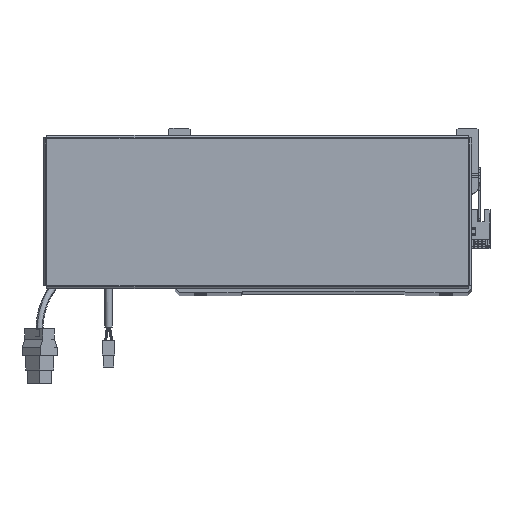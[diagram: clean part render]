
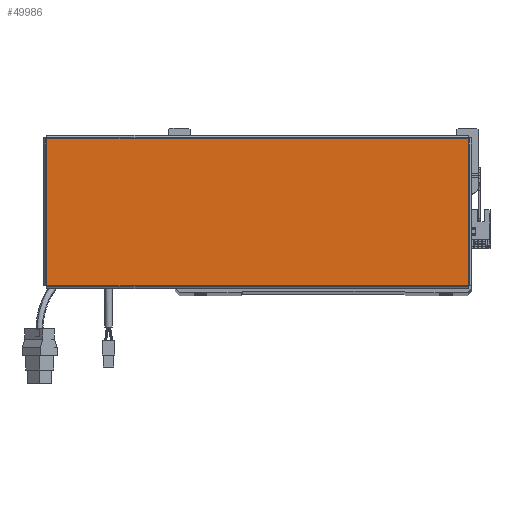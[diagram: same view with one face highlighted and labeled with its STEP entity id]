
A CAD part, top view. The second image highlights one B-rep face of the part: STEP entity #49986.
In plain terms, the highlighted planar face has unit normal (0, 0, 1).
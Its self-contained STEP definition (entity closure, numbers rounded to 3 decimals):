
#469 = CARTESIAN_POINT ( 'NONE',  ( 156.513, -54.763, 0. ) ) ;
#2569 = DIRECTION ( 'NONE',  ( -1., 0., 0. ) ) ;
#3104 = LINE ( 'NONE', #47671, #46577 ) ;
#4185 = LINE ( 'NONE', #45377, #60492 ) ;
#4719 = VERTEX_POINT ( 'NONE', #18604 ) ;
#12637 = CARTESIAN_POINT ( 'NONE',  ( 156.543, 54.763, 0. ) ) ;
#14730 = VECTOR ( 'NONE', #2569, 1000. ) ;
#16988 = VECTOR ( 'NONE', #47443, 1000. ) ;
#17018 = EDGE_CURVE ( 'NONE', #45735, #53700, #36668, .T. ) ;
#18604 = CARTESIAN_POINT ( 'NONE',  ( -156.513, 54.763, 0. ) ) ;
#18950 = DIRECTION ( 'NONE',  ( 0., -1., 0. ) ) ;
#20145 = ORIENTED_EDGE ( 'NONE', *, *, #17018, .T. ) ;
#21251 = PLANE ( 'NONE',  #62782 ) ;
#21779 = CARTESIAN_POINT ( 'NONE',  ( 156.513, 54.763, 0. ) ) ;
#25012 = FACE_OUTER_BOUND ( 'NONE', #53131, .T. ) ;
#25106 = CARTESIAN_POINT ( 'NONE',  ( 156.513, -54.793, 0. ) ) ;
#32452 = DIRECTION ( 'NONE',  ( 0., 0., 1. ) ) ;
#34054 = ORIENTED_EDGE ( 'NONE', *, *, #69628, .T. ) ;
#36668 = LINE ( 'NONE', #25106, #16988 ) ;
#36916 = LINE ( 'NONE', #12637, #14730 ) ;
#41457 = VERTEX_POINT ( 'NONE', #62909 ) ;
#45377 = CARTESIAN_POINT ( 'NONE',  ( -156.513, 54.793, 0. ) ) ;
#45735 = VERTEX_POINT ( 'NONE', #469 ) ;
#46577 = VECTOR ( 'NONE', #52687, 1000. ) ;
#47443 = DIRECTION ( 'NONE',  ( 0., 1., 0. ) ) ;
#47671 = CARTESIAN_POINT ( 'NONE',  ( -156.543, -54.763, 0. ) ) ;
#49003 = ORIENTED_EDGE ( 'NONE', *, *, #55173, .T. ) ;
#49986 = ADVANCED_FACE ( 'NONE', ( #25012 ), #21251, .T. ) ;
#52687 = DIRECTION ( 'NONE',  ( 1., 0., 0. ) ) ;
#53131 = EDGE_LOOP ( 'NONE', ( #34054, #20145, #49003, #67083 ) ) ;
#53700 = VERTEX_POINT ( 'NONE', #21779 ) ;
#55173 = EDGE_CURVE ( 'NONE', #53700, #4719, #36916, .T. ) ;
#57709 = EDGE_CURVE ( 'NONE', #4719, #41457, #4185, .T. ) ;
#60492 = VECTOR ( 'NONE', #18950, 1000. ) ;
#62782 = AXIS2_PLACEMENT_3D ( 'NONE', #70134, #32452, #65565 ) ;
#62909 = CARTESIAN_POINT ( 'NONE',  ( -156.513, -54.763, 0. ) ) ;
#65565 = DIRECTION ( 'NONE',  ( 1., 0., 0. ) ) ;
#67083 = ORIENTED_EDGE ( 'NONE', *, *, #57709, .T. ) ;
#69628 = EDGE_CURVE ( 'NONE', #41457, #45735, #3104, .T. ) ;
#70134 = CARTESIAN_POINT ( 'NONE',  ( 0., 0., 0. ) ) ;
